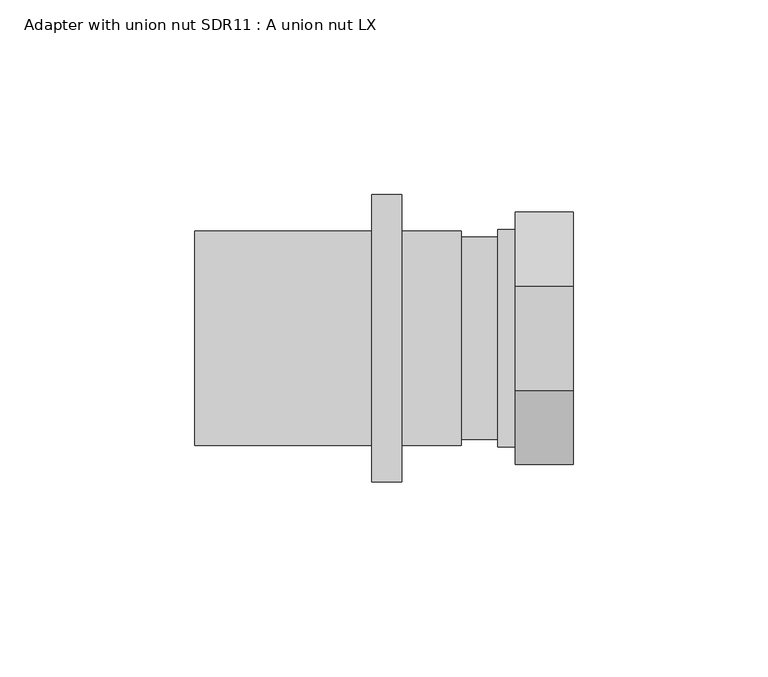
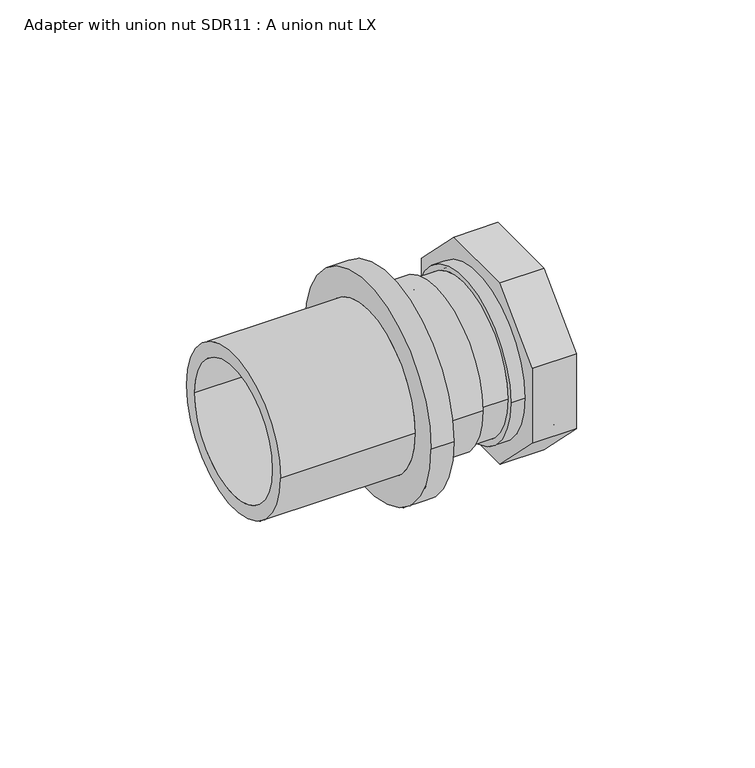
"""IFC4 building model written with IfcOpenShell, lengths in millimetres: pipe fitting geometry, Adapter with union nut SDR11 : A union nut LX."""

from ifc_helpers import new_model, si_unit, frame, origin, place, context, project, spatial, polyline, circle_curve, source, transform, mapped, element, save
from ifc_brep_helpers import plane_surface, cylinder_surface, revolved_surface, advanced_brep


def adapter_with_union_nut_sdr11_a_union_nut_lx_b8b73a84(model_context):
    return source(origin(), model_context, "Body", "AdvancedBrep", [
        advanced_brep(
        [(28.8, 28.0, 0.0), (28.8, -28.0, 0.0), (9.3, -28.0, 0.0), (9.3, 28.0, 0.0), (9.3, 26.0, 0.0), (9.3, -26.0, 0.0), (0.0, -26.0, 0.0), (0.0, 26.0, 0.0), (0.0, -22.75, 0.0), (0.0, 22.75, 0.0), (11.7, 26.0, 0.0), (11.7, -26.0, 0.0), (28.8, -26.0, 0.0), (28.8, 26.0, 0.0), (11.7, 22.75, 0.0), (11.7, -22.75, 0.0)],
        [
            (0, 1, circle_curve(frame((28.8, 0.0, 0.0), z_axis=(-1.0, 0.0, 0.0), x_axis=(0.0, -1.0, 0.0)), 28.0)),
            (1, 2),
            (2, 3, circle_curve(frame((9.3, 0.0, 0.0), z_axis=(1.0, 0.0, 0.0), x_axis=(0.0, -1.0, 0.0)), 28.0)),
            (3, 0),
            (4, 5, circle_curve(frame((9.3, 0.0, 0.0), z_axis=(-1.0, 0.0, 0.0), x_axis=(0.0, -1.0, 0.0)), 26.0)),
            (5, 6),
            (6, 7, circle_curve(frame((0.0, 0.0, 0.0), z_axis=(1.0, 0.0, 0.0), x_axis=(0.0, -1.0, 0.0)), 26.0)),
            (7, 4),
            (1, 0, circle_curve(frame((28.8, 0.0, 0.0), z_axis=(-1.0, 0.0, 0.0), x_axis=(0.0, 1.0, 0.0)), 28.0)),
            (3, 2, circle_curve(frame((9.3, 0.0, 0.0), z_axis=(1.0, 0.0, 0.0), x_axis=(0.0, 1.0, 0.0)), 28.0)),
            (6, 7, circle_curve(frame((0.0, 0.0, 0.0), z_axis=(-1.0, 0.0, 0.0), x_axis=(0.0, 1.0, 0.0)), 26.0)),
            (8, 9, circle_curve(frame((0.0, 0.0, 0.0), z_axis=(1.0, 0.0, 0.0), x_axis=(0.0, -1.0, 0.0)), 22.75)),
            (9, 8, circle_curve(frame((0.0, 0.0, 0.0), z_axis=(1.0, 0.0, 0.0), x_axis=(0.0, -1.0, 0.0)), 22.75)),
            (5, 4, circle_curve(frame((9.3, 0.0, 0.0), z_axis=(-1.0, 0.0, 0.0), x_axis=(0.0, 1.0, 0.0)), 26.0)),
            (10, 11, circle_curve(frame((11.7, 0.0, 0.0), z_axis=(-1.0, 0.0, 0.0), x_axis=(0.0, -1.0, 0.0)), 26.0)),
            (11, 12),
            (12, 13, circle_curve(frame((28.8, 0.0, 0.0), z_axis=(1.0, 0.0, 0.0), x_axis=(0.0, -1.0, 0.0)), 26.0)),
            (13, 10),
            (12, 13, circle_curve(frame((28.8, 0.0, 0.0), z_axis=(-1.0, 0.0, 0.0), x_axis=(0.0, 1.0, 0.0)), 26.0)),
            (11, 10, circle_curve(frame((11.7, 0.0, 0.0), z_axis=(-1.0, 0.0, 0.0), x_axis=(0.0, 1.0, 0.0)), 26.0)),
            (14, 15, circle_curve(frame((11.7, 0.0, 0.0), z_axis=(-1.0, 0.0, 0.0), x_axis=(0.0, -1.0, 0.0)), 22.75)),
            (15, 14, circle_curve(frame((11.7, 0.0, 0.0), z_axis=(-1.0, 0.0, 0.0), x_axis=(0.0, -1.0, 0.0)), 22.75)),
            (14, 9),
            (8, 15),
        ],
        [
            cylinder_surface(frame((0.0, 0.0, 0.0), z_axis=(1.0, 0.0, 0.0), x_axis=(0.0, -1.0, 0.0)), 28.0),
            cylinder_surface(frame((0.0, 0.0, 0.0), z_axis=(1.0, 0.0, 0.0), x_axis=(0.0, -1.0, 0.0)), 26.0),
            cylinder_surface(frame((0.0, 0.0, 0.0), z_axis=(1.0, 0.0, 0.0), x_axis=(0.0, 1.0, 0.0)), 28.0),
            plane_surface(frame((0.0, 0.0, 0.0), z_axis=(-1.0, 0.0, 0.0), x_axis=(0.0, 1.0, 0.0))),
            cylinder_surface(frame((0.0, 0.0, 0.0), z_axis=(1.0, 0.0, 0.0), x_axis=(0.0, 1.0, 0.0)), 26.0),
            plane_surface(frame((9.3, 0.0, 0.0), z_axis=(-1.0, 0.0, 0.0), x_axis=(0.0, 1.0, 0.0))),
            revolved_surface(polyline([(28.8, -26.0, 0.0), (11.7, -26.0, 0.0)]), (0.0, 0.0, 0.0), (1.0, 0.0, 0.0)),
            plane_surface(frame((28.8, 0.0, 0.0), z_axis=(1.0, 0.0, 0.0), x_axis=(0.0, 1.0, 0.0))),
            revolved_surface(polyline([(28.8, 26.0, 0.0), (11.7, 26.0, 0.0)]), (0.0, 0.0, 0.0), (1.0, 0.0, 0.0)),
            plane_surface(frame((11.7, 0.0, 0.0), z_axis=(1.0, 0.0, 0.0), x_axis=(0.0, 1.0, 0.0))),
            revolved_surface(polyline([(0.0, -22.75, 0.0), (11.7, -22.75, 0.0)]), (21.3, 0.0, 0.0), (-1.0, 0.0, 0.0)),
        ],
        [
            (0, [[1, 2, 3, 4]]),
            (1, [[5, 6, 7, 8]]),
            (2, [[-2, 9, -4, 10]]),
            (3, [[-7, 11], [12, 13]]),
            (4, [[-6, 14, -8, -11]]),
            (5, [[-3, -10], [-5, -14]]),
            (6, [[15, 16, 17, 18]]),
            (7, [[-1, -9], [-17, 19]]),
            (8, [[-16, 20, -18, -19]]),
            (9, [[-15, -20], [21, 22]]),
            (10, [[23, -12, 24, -21]]),
            (10, [[-23, -22, -24, -13]]),
        ],
    ),
        advanced_brep(
        [(28.8, -32.5, -13.4619408), (13.8, -32.5, -13.4619408), (13.8, -13.4619408, -32.5), (28.8, -13.4619408, -32.5), (13.8, 13.4619408, -32.5), (28.8, 13.4619408, -32.5), (13.8, 32.5, -13.4619408), (28.8, 32.5, -13.4619408), (28.8, 32.5, 13.4619408), (13.8, 32.5, 13.4619408), (13.8, 13.4619408, 32.5), (28.8, 13.4619408, 32.5), (13.8, -13.4619408, 32.5), (28.8, -13.4619408, 32.5), (13.8, -32.5, 13.4619408), (28.8, -32.5, 13.4619408), (21.3, 28.0, 0.0), (21.3, -28.0, 0.0), (21.3, 22.75, 0.0), (21.3, -22.75, 0.0), (28.8, -28.0, 0.0), (28.8, 28.0, 0.0), (13.8, 22.75, 0.0), (13.8, -22.75, 0.0)],
        [
            (0, 1),
            (1, 2),
            (2, 3),
            (3, 0),
            (2, 4),
            (4, 5),
            (5, 3),
            (4, 6),
            (6, 7),
            (7, 5),
            (8, 9),
            (9, 10),
            (10, 11),
            (11, 8),
            (10, 12),
            (12, 13),
            (13, 11),
            (12, 14),
            (14, 15),
            (15, 13),
            (16, 17, circle_curve(frame((21.3, 0.0, 0.0), z_axis=(1.0, 0.0, 0.0), x_axis=(0.0, -1.0, 0.0)), 28.0)),
            (17, 16, circle_curve(frame((21.3, 0.0, 0.0), z_axis=(1.0, 0.0, 0.0), x_axis=(0.0, -1.0, 0.0)), 28.0)),
            (18, 19, circle_curve(frame((21.3, 0.0, 0.0), z_axis=(-1.0, 0.0, 0.0), x_axis=(0.0, -1.0, 0.0)), 22.75)),
            (19, 18, circle_curve(frame((21.3, 0.0, 0.0), z_axis=(-1.0, 0.0, 0.0), x_axis=(0.0, -1.0, 0.0)), 22.75)),
            (17, 20),
            (20, 21, circle_curve(frame((28.8, 0.0, 0.0), z_axis=(1.0, 0.0, 0.0), x_axis=(0.0, -1.0, 0.0)), 28.0)),
            (21, 16),
            (21, 20, circle_curve(frame((28.8, 0.0, 0.0), z_axis=(1.0, 0.0, 0.0), x_axis=(0.0, -1.0, 0.0)), 28.0)),
            (18, 22),
            (22, 23, circle_curve(frame((13.8, 0.0, 0.0), z_axis=(-1.0, 0.0, 0.0), x_axis=(0.0, -1.0, 0.0)), 22.75)),
            (23, 19),
            (23, 22, circle_curve(frame((13.8, 0.0, 0.0), z_axis=(-1.0, 0.0, 0.0), x_axis=(0.0, -1.0, 0.0)), 22.75)),
            (6, 9),
            (8, 7),
            (1, 14),
            (0, 15),
        ],
        [
            plane_surface(frame((13.8, -32.5, -13.4619408), z_axis=(0.0, -0.7071067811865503, -0.7071067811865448), x_axis=(0.0, 0.7071067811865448, -0.7071067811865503))),
            plane_surface(frame((13.8, -13.4619408, -32.5), z_axis=(0.0, 0.0, -1.0), x_axis=(0.0, 1.0, 0.0))),
            plane_surface(frame((13.8, 13.4619408, -32.5), z_axis=(0.0, 0.7071067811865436, -0.7071067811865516), x_axis=(0.0, 0.7071067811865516, 0.7071067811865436))),
            plane_surface(frame((13.8, 32.5, 13.4619408), z_axis=(0.0, 0.707106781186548, 0.707106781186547), x_axis=(0.0, -0.707106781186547, 0.707106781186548))),
            plane_surface(frame((13.8, 13.4619408, 32.5), z_axis=(0.0, 0.0, 1.0), x_axis=(0.0, -1.0, 0.0))),
            plane_surface(frame((13.8, -13.4619408, 32.5), z_axis=(0.0, -0.7071067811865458, 0.7071067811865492), x_axis=(0.0, -0.7071067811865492, -0.7071067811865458))),
            plane_surface(frame((21.3, -28.0, 0.0), z_axis=(1.0, 0.0, 0.0), x_axis=(0.0, 0.0, 1.0))),
            revolved_surface(polyline([(21.3, -28.0, 0.0), (28.8, -28.0, 0.0)]), (45.0991925, 0.0, 0.0), (-1.0, 0.0, 0.0)),
            revolved_surface(polyline([(13.8, -22.75, 0.0), (21.3, -22.75, 0.0)]), (21.3, 0.0, 0.0), (-1.0, 0.0, 0.0)),
            plane_surface(frame((13.8, 32.5, -13.4619408), z_axis=(0.0, 1.0, 0.0), x_axis=(0.0, 0.0, 1.0))),
            plane_surface(frame((13.8, 0.0, 0.0), z_axis=(-1.0, 0.0, 0.0), x_axis=(0.0, 0.0, -1.0))),
            plane_surface(frame((13.8, -32.5, 13.4619408), z_axis=(0.0, -1.0, 0.0), x_axis=(0.0, 0.0, -1.0))),
            plane_surface(frame((28.8, -32.5, 13.4619408), z_axis=(1.0, 0.0, 0.0), x_axis=(0.0, 0.0, -1.0))),
        ],
        [
            (0, [[1, 2, 3, 4]]),
            (1, [[-3, 5, 6, 7]]),
            (2, [[-6, 8, 9, 10]]),
            (3, [[11, 12, 13, 14]]),
            (4, [[-13, 15, 16, 17]]),
            (5, [[-16, 18, 19, 20]]),
            (6, [[21, 22], [23, 24]]),
            (7, [[-22, 25, 26, 27]]),
            (7, [[-21, -27, 28, -25]]),
            (8, [[29, 30, 31, -23]]),
            (8, [[-29, -24, -31, 32]]),
            (9, [[-9, 33, -11, 34]]),
            (10, [[-2, 35, -18, -15, -12, -33, -8, -5], [-30, -32]]),
            (11, [[-1, 36, -19, -35]]),
            (12, [[-4, -7, -10, -34, -14, -17, -20, -36], [-26, -28]]),
        ],
    ),
        advanced_brep(
        [(-23.0, 27.55, 0.0), (-23.0, -27.55, 0.0), (-68.6, -27.55, 0.0), (-68.6, 27.55, 0.0), (-15.3, 37.0, 0.0), (-15.3, -37.0, 0.0), (-23.0, -37.0, 0.0), (-23.0, 37.0, 0.0), (0.0, 27.55, 0.0), (0.0, -27.55, 0.0), (-15.3, -27.55, 0.0), (-15.3, 27.55, 0.0), (-68.6, 22.75, 0.0), (-68.6, -22.75, 0.0), (-23.0, -22.75, 0.0), (0.0, -22.75, 0.0), (0.0, 22.75, 0.0), (-23.0, 22.75, 0.0)],
        [
            (0, 1, circle_curve(frame((-23.0, 0.0, 0.0), z_axis=(-1.0, 0.0, 0.0), x_axis=(0.0, -1.0, 0.0)), 27.55)),
            (1, 2),
            (2, 3, circle_curve(frame((-68.6, 0.0, 0.0), z_axis=(1.0, 0.0, 0.0), x_axis=(0.0, -1.0, 0.0)), 27.55)),
            (3, 0),
            (4, 5, circle_curve(frame((-15.3, 0.0, 0.0), z_axis=(-1.0, 0.0, 0.0), x_axis=(0.0, -1.0, 0.0)), 37.0)),
            (5, 6),
            (6, 7, circle_curve(frame((-23.0, 0.0, 0.0), z_axis=(1.0, 0.0, 0.0), x_axis=(0.0, -1.0, 0.0)), 37.0)),
            (7, 4),
            (8, 9, circle_curve(frame((0.0, 0.0, 0.0), z_axis=(-1.0, 0.0, 0.0), x_axis=(0.0, -1.0, 0.0)), 27.55)),
            (9, 10),
            (10, 11, circle_curve(frame((-15.3, 0.0, 0.0), z_axis=(1.0, 0.0, 0.0), x_axis=(0.0, -1.0, 0.0)), 27.55)),
            (11, 8),
            (12, 13, circle_curve(frame((-68.6, 0.0, 0.0), z_axis=(-1.0, 0.0, 0.0), x_axis=(0.0, -1.0, 0.0)), 22.75)),
            (13, 14),
            (14, 15),
            (15, 16, circle_curve(frame((0.0, 0.0, 0.0), z_axis=(1.0, 0.0, 0.0), x_axis=(0.0, -1.0, 0.0)), 22.75)),
            (16, 17),
            (17, 12),
            (2, 3, circle_curve(frame((-68.6, 0.0, 0.0), z_axis=(-1.0, 0.0, 0.0), x_axis=(0.0, 1.0, 0.0)), 27.55)),
            (12, 13, circle_curve(frame((-68.6, 0.0, 0.0), z_axis=(1.0, 0.0, 0.0), x_axis=(0.0, 1.0, 0.0)), 22.75)),
            (1, 0, circle_curve(frame((-23.0, 0.0, 0.0), z_axis=(-1.0, 0.0, 0.0), x_axis=(0.0, 1.0, 0.0)), 27.55)),
            (6, 7, circle_curve(frame((-23.0, 0.0, 0.0), z_axis=(-1.0, 0.0, 0.0), x_axis=(0.0, 1.0, 0.0)), 37.0)),
            (5, 4, circle_curve(frame((-15.3, 0.0, 0.0), z_axis=(-1.0, 0.0, 0.0), x_axis=(0.0, 1.0, 0.0)), 37.0)),
            (10, 11, circle_curve(frame((-15.3, 0.0, 0.0), z_axis=(-1.0, 0.0, 0.0), x_axis=(0.0, 1.0, 0.0)), 27.55)),
            (9, 8, circle_curve(frame((0.0, 0.0, 0.0), z_axis=(-1.0, 0.0, 0.0), x_axis=(0.0, 1.0, 0.0)), 27.55)),
            (15, 16, circle_curve(frame((0.0, 0.0, 0.0), z_axis=(-1.0, 0.0, 0.0), x_axis=(0.0, 1.0, 0.0)), 22.75)),
        ],
        [
            cylinder_surface(frame((0.0, 0.0, 0.0), z_axis=(1.0, 0.0, 0.0), x_axis=(0.0, -1.0, 0.0)), 27.55),
            cylinder_surface(frame((0.0, 0.0, 0.0), z_axis=(1.0, 0.0, 0.0), x_axis=(0.0, -1.0, 0.0)), 37.0),
            revolved_surface(polyline([(0.0, -22.75, 0.0), (-68.6, -22.75, 0.0)]), (0.0, 0.0, 0.0), (1.0, 0.0, 0.0)),
            plane_surface(frame((-68.6, 0.0, 0.0), z_axis=(-1.0, 0.0, 0.0), x_axis=(0.0, 1.0, 0.0))),
            cylinder_surface(frame((0.0, 0.0, 0.0), z_axis=(1.0, 0.0, 0.0), x_axis=(0.0, 1.0, 0.0)), 27.55),
            plane_surface(frame((-23.0, 0.0, 0.0), z_axis=(-1.0, 0.0, 0.0), x_axis=(0.0, 1.0, 0.0))),
            cylinder_surface(frame((0.0, 0.0, 0.0), z_axis=(1.0, 0.0, 0.0), x_axis=(0.0, 1.0, 0.0)), 37.0),
            plane_surface(frame((-15.3, 0.0, 0.0), z_axis=(1.0, 0.0, 0.0), x_axis=(0.0, 1.0, 0.0))),
            plane_surface(frame((0.0, 0.0, 0.0), z_axis=(1.0, 0.0, 0.0), x_axis=(0.0, 1.0, 0.0))),
            revolved_surface(polyline([(0.0, 22.75, 0.0), (-68.6, 22.75, 0.0)]), (0.0, 0.0, 0.0), (1.0, 0.0, 0.0)),
        ],
        [
            (0, [[1, 2, 3, 4]]),
            (1, [[5, 6, 7, 8]]),
            (0, [[9, 10, 11, 12]]),
            (2, [[13, 14, 15, 16, 17, 18]]),
            (3, [[-3, 19], [-13, 20]]),
            (4, [[-2, 21, -4, -19]]),
            (5, [[-7, 22], [-1, -21]]),
            (6, [[-6, 23, -8, -22]]),
            (7, [[-5, -23], [-11, 24]]),
            (4, [[-10, 25, -12, -24]]),
            (8, [[-9, -25], [-16, 26]]),
            (9, [[-20, -18, -17, -26, -15, -14]]),
        ],
    ),
    ])


if __name__ == "__main__":
    model = new_model("IFC4")
    model_context = context("Model", 3, world=origin())
    ifc_project = project(units=[si_unit("LENGTHUNIT", "METRE", prefix="MILLI")], contexts=[model_context])
    site = spatial("IfcSite", under=ifc_project)
    building = spatial("IfcBuilding", under=site)
    placement = place(None, origin())
    adapter_with_union_nut_sdr11_a_union_nut_lx_shape = adapter_with_union_nut_sdr11_a_union_nut_lx_b8b73a84(model_context)
    element("IfcPipeFitting", 1, ObjectType="Adapter with union nut SDR11 : A union nut LX", at=placement, inside=building, context=model_context, shape_type="MappedRepresentation", body=[
        mapped(adapter_with_union_nut_sdr11_a_union_nut_lx_shape, transform((0.0, 0.0, 0.0), x_axis=(1.0, 0.0, 0.0), y_axis=(0.0, 1.0, 0.0), z_axis=(0.0, 0.0, 1.0))),
    ])
    save(model, "model.ifc")
